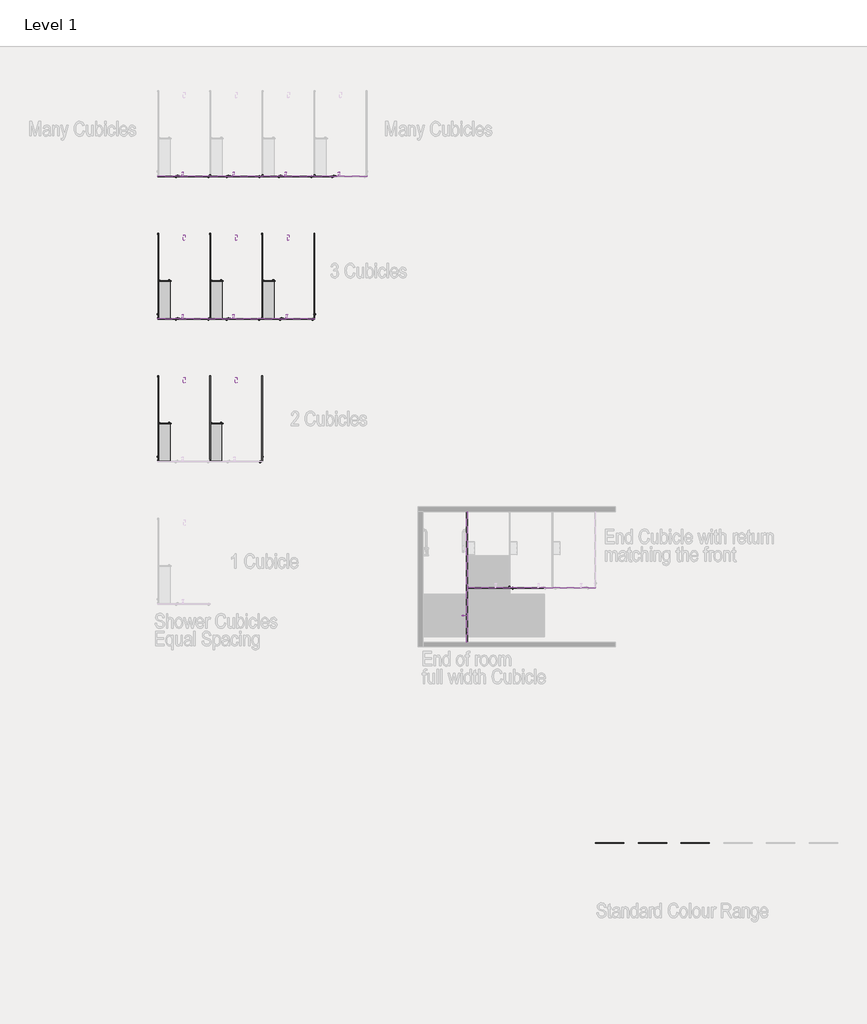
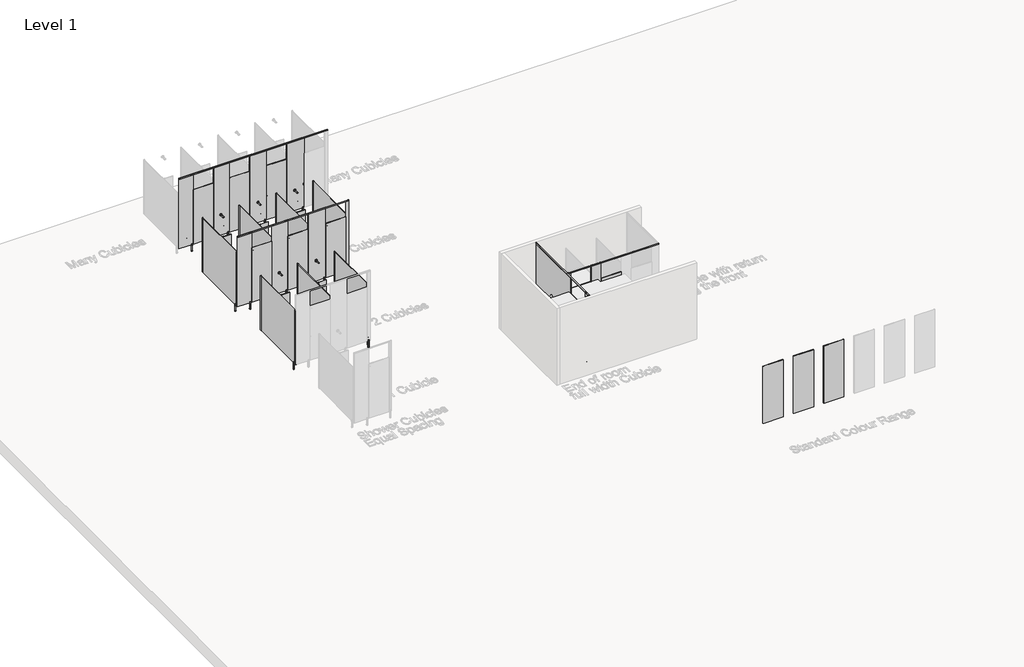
# One storey, part 5 of 21: 133 furniture elements, 5 flow terminals.
"""IFC4 building model written with IfcOpenShell, lengths in millimetres."""

from ifc_helpers import new_model, si_unit, origin, place, context, project, spatial, transform, mapped, element, save
from components import shower_outlet_generic_cylinder_fixed_standard_5790de0d, furniture_50x50x3_ea_0fb80352, standard_e386308a, standard_6b64d56b, standard_17157e73, standard_9bd00577, standard_65739662, standard_f6136b52, standard_e81fa5b9, standard_ffdb37bb, standard_33255a47, standard_652f884a, standard_c5de867e, standard_d8ce52b2, standard_33f537b4, standard_4fdd54ca, standard_2b15ccc3, standard_f97d8a50, standard_a796d752, standard_46c0796d, standard_c26dc9b4, standard_c51d1a0a, standard_d9afaeec, standard_fdf829a3, standard_31cafe8a, standard_3d746f33, standard_4055153e, standard_ba3eb68e, standard_a495ee6c, standard_6f46902e, standard_4ddd5521, standard_c67f05f5

model = new_model("IFC4")

# Units and contexts
model_context = context("Model", 3, world=origin())
ifc_project = project(units=[si_unit("LENGTHUNIT", "METRE", prefix="MILLI")], contexts=[model_context])

# Site, building, storey
site = spatial("IfcSite", under=ifc_project)
building = spatial("IfcBuilding", under=site)
storey = spatial("IfcBuildingStorey", under=building, Name="Level 1", Elevation=0.0)

# Flow terminals
placement = place(None, origin())
shower_outlet_generic_cylinder_fixed_standard_shape = shower_outlet_generic_cylinder_fixed_standard_5790de0d(model_context)
element("IfcFlowTerminal", 1, ObjectType="Shower-Outlet-Generic-Cylinder-Fixed : Standard", at=placement, inside=storey, context=model_context, shape_type="MappedRepresentation", body=[
    mapped(shower_outlet_generic_cylinder_fixed_standard_shape, transform((-19348.5301542, 27782.2607897, 1800.0), x_axis=(1.0, 0.0, 0.0), y_axis=(0.0, 0.0, 1.0), z_axis=(0.0, -1.0, 0.0))),
])
element("IfcFlowTerminal", 2, ObjectType="Shower-Outlet-Generic-Cylinder-Fixed : Standard", at=placement, inside=storey, context=model_context, shape_type="MappedRepresentation", body=[
    mapped(shower_outlet_generic_cylinder_fixed_standard_shape, transform((-18255.0301542, 27782.2607897, 1800.0), x_axis=(1.0, 0.0, 0.0), y_axis=(0.0, 0.0, 1.0), z_axis=(0.0, -1.0, 0.0))),
])
element("IfcFlowTerminal", 3, ObjectType="Shower-Outlet-Generic-Cylinder-Fixed : Standard", at=placement, inside=storey, context=model_context, shape_type="MappedRepresentation", body=[
    mapped(shower_outlet_generic_cylinder_fixed_standard_shape, transform((-19347.4468208, 30782.2607897, 1800.0), x_axis=(1.0, 0.0, 0.0), y_axis=(0.0, 0.0, 1.0), z_axis=(0.0, -1.0, 0.0))),
])
element("IfcFlowTerminal", 4, ObjectType="Shower-Outlet-Generic-Cylinder-Fixed : Standard", at=placement, inside=storey, context=model_context, shape_type="MappedRepresentation", body=[
    mapped(shower_outlet_generic_cylinder_fixed_standard_shape, transform((-17156.1134875, 30782.2607897, 1800.0), x_axis=(1.0, 0.0, 0.0), y_axis=(0.0, 0.0, 1.0), z_axis=(0.0, -1.0, 0.0))),
])
element("IfcFlowTerminal", 5, ObjectType="Shower-Outlet-Generic-Cylinder-Fixed : Standard", at=placement, inside=storey, context=model_context, shape_type="MappedRepresentation", body=[
    mapped(shower_outlet_generic_cylinder_fixed_standard_shape, transform((-18251.7801542, 30782.2607897, 1800.0), x_axis=(1.0, 0.0, 0.0), y_axis=(0.0, 0.0, 1.0), z_axis=(0.0, -1.0, 0.0))),
])

# Furniture
furniture_50x50x3_ea_shape = furniture_50x50x3_ea_0fb80352(model_context)
element("IfcFurniture", 6, ObjectType="X_Partition-Angle-Duracube-Shower Seat : 50x50x3 EA", at=placement, inside=storey, context=model_context, shape_type="MappedRepresentation", body=[
    mapped(furniture_50x50x3_ea_shape, transform((-19888.7801542, 26719.2607897, 462.0), x_axis=(0.0, -1.0, 0.0), y_axis=(0.0, 0.0, -1.0), z_axis=(1.0, 0.0, 0.0))),
])
element("IfcFurniture", 7, ObjectType="X_Partition-Angle-Duracube-Shower Seat : 50x50x3 EA", at=placement, inside=storey, context=model_context, shape_type="MappedRepresentation", body=[
    mapped(furniture_50x50x3_ea_shape, transform((-19888.7801542, 26032.2607897, 462.0), x_axis=(0.0, -1.0, 0.0), y_axis=(0.0, 0.0, -1.0), z_axis=(1.0, 0.0, 0.0))),
])
element("IfcFurniture", 8, ObjectType="X_Partition-Angle-Duracube-Shower Seat : 50x50x3 EA", at=placement, inside=storey, context=model_context, shape_type="MappedRepresentation", body=[
    mapped(furniture_50x50x3_ea_shape, transform((-19888.7801542, 26375.7607897, 462.0), x_axis=(0.0, -1.0, 0.0), y_axis=(0.0, 0.0, -1.0), z_axis=(1.0, 0.0, 0.0))),
])
element("IfcFurniture", 9, ObjectType="X_Partition-Angle-Duracube-Shower Seat : 50x50x3 EA", at=placement, inside=storey, context=model_context, shape_type="MappedRepresentation", body=[
    mapped(furniture_50x50x3_ea_shape, transform((-19673.7801542, 26769.2607897, 462.0), x_axis=(-1.0, 0.0, 0.0), y_axis=(0.0, 0.0, -1.0), z_axis=(0.0, -1.0, 0.0))),
])
element("IfcFurniture", 10, ObjectType="X_Partition-Angle-Duracube-Shower Seat : 50x50x3 EA", at=placement, inside=storey, context=model_context, shape_type="MappedRepresentation", body=[
    mapped(furniture_50x50x3_ea_shape, transform((-19673.7801542, 26007.2607897, 487.0), x_axis=(-1.0, 0.0, 0.0), y_axis=(0.0, 1.0, 0.0), z_axis=(0.0, 0.0, -1.0))),
])
element("IfcFurniture", 11, ObjectType="X_Partition-Angle-Duracube-Shower Seat : 50x50x3 EA", at=placement, inside=storey, context=model_context, shape_type="MappedRepresentation", body=[
    mapped(furniture_50x50x3_ea_shape, transform((-18795.2801542, 26719.2607897, 462.0), x_axis=(0.0, -1.0, 0.0), y_axis=(0.0, 0.0, -1.0), z_axis=(1.0, 0.0, 0.0))),
])
element("IfcFurniture", 12, ObjectType="X_Partition-Angle-Duracube-Shower Seat : 50x50x3 EA", at=placement, inside=storey, context=model_context, shape_type="MappedRepresentation", body=[
    mapped(furniture_50x50x3_ea_shape, transform((-18795.2801542, 26032.2607897, 462.0), x_axis=(0.0, -1.0, 0.0), y_axis=(0.0, 0.0, -1.0), z_axis=(1.0, 0.0, 0.0))),
])
element("IfcFurniture", 13, ObjectType="X_Partition-Angle-Duracube-Shower Seat : 50x50x3 EA", at=placement, inside=storey, context=model_context, shape_type="MappedRepresentation", body=[
    mapped(furniture_50x50x3_ea_shape, transform((-18795.2801542, 26375.7607897, 462.0), x_axis=(0.0, -1.0, 0.0), y_axis=(0.0, 0.0, -1.0), z_axis=(1.0, 0.0, 0.0))),
])
element("IfcFurniture", 14, ObjectType="X_Partition-Angle-Duracube-Shower Seat : 50x50x3 EA", at=placement, inside=storey, context=model_context, shape_type="MappedRepresentation", body=[
    mapped(furniture_50x50x3_ea_shape, transform((-18580.2801542, 26769.2607897, 462.0), x_axis=(-1.0, 0.0, 0.0), y_axis=(0.0, 0.0, -1.0), z_axis=(0.0, -1.0, 0.0))),
])
element("IfcFurniture", 15, ObjectType="X_Partition-Angle-Duracube-Shower Seat : 50x50x3 EA", at=placement, inside=storey, context=model_context, shape_type="MappedRepresentation", body=[
    mapped(furniture_50x50x3_ea_shape, transform((-18580.2801542, 26007.2607897, 487.0), x_axis=(-1.0, 0.0, 0.0), y_axis=(0.0, 1.0, 0.0), z_axis=(0.0, 0.0, -1.0))),
])
element("IfcFurniture", 16, ObjectType="X_Partition-Angle-Duracube-Shower Seat : 50x50x3 EA", at=placement, inside=storey, context=model_context, shape_type="MappedRepresentation", body=[
    mapped(furniture_50x50x3_ea_shape, transform((-19888.7801542, 29719.2607897, 462.0), x_axis=(0.0, -1.0, 0.0), y_axis=(0.0, 0.0, -1.0), z_axis=(1.0, 0.0, 0.0))),
])
element("IfcFurniture", 17, ObjectType="X_Partition-Angle-Duracube-Shower Seat : 50x50x3 EA", at=placement, inside=storey, context=model_context, shape_type="MappedRepresentation", body=[
    mapped(furniture_50x50x3_ea_shape, transform((-19888.7801542, 29032.2607897, 462.0), x_axis=(0.0, -1.0, 0.0), y_axis=(0.0, 0.0, -1.0), z_axis=(1.0, 0.0, 0.0))),
])
element("IfcFurniture", 18, ObjectType="X_Partition-Angle-Duracube-Shower Seat : 50x50x3 EA", at=placement, inside=storey, context=model_context, shape_type="MappedRepresentation", body=[
    mapped(furniture_50x50x3_ea_shape, transform((-19888.7801542, 29375.7607897, 462.0), x_axis=(0.0, -1.0, 0.0), y_axis=(0.0, 0.0, -1.0), z_axis=(1.0, 0.0, 0.0))),
])
element("IfcFurniture", 19, ObjectType="X_Partition-Angle-Duracube-Shower Seat : 50x50x3 EA", at=placement, inside=storey, context=model_context, shape_type="MappedRepresentation", body=[
    mapped(furniture_50x50x3_ea_shape, transform((-19673.7801542, 29769.2607897, 462.0), x_axis=(-1.0, 0.0, 0.0), y_axis=(0.0, 0.0, -1.0), z_axis=(0.0, -1.0, 0.0))),
])
element("IfcFurniture", 20, ObjectType="X_Partition-Angle-Duracube-Shower Seat : 50x50x3 EA", at=placement, inside=storey, context=model_context, shape_type="MappedRepresentation", body=[
    mapped(furniture_50x50x3_ea_shape, transform((-19673.7801542, 29007.2607897, 487.0), x_axis=(-1.0, 0.0, 0.0), y_axis=(0.0, 1.0, 0.0), z_axis=(0.0, 0.0, -1.0))),
])
element("IfcFurniture", 21, ObjectType="X_Partition-Angle-Duracube-Shower Seat : 50x50x3 EA", at=placement, inside=storey, context=model_context, shape_type="MappedRepresentation", body=[
    mapped(furniture_50x50x3_ea_shape, transform((-18793.1134875, 29719.2607897, 462.0), x_axis=(0.0, -1.0, 0.0), y_axis=(0.0, 0.0, -1.0), z_axis=(1.0, 0.0, 0.0))),
])
element("IfcFurniture", 22, ObjectType="X_Partition-Angle-Duracube-Shower Seat : 50x50x3 EA", at=placement, inside=storey, context=model_context, shape_type="MappedRepresentation", body=[
    mapped(furniture_50x50x3_ea_shape, transform((-18793.1134875, 29032.2607897, 462.0), x_axis=(0.0, -1.0, 0.0), y_axis=(0.0, 0.0, -1.0), z_axis=(1.0, 0.0, 0.0))),
])
element("IfcFurniture", 23, ObjectType="X_Partition-Angle-Duracube-Shower Seat : 50x50x3 EA", at=placement, inside=storey, context=model_context, shape_type="MappedRepresentation", body=[
    mapped(furniture_50x50x3_ea_shape, transform((-18793.1134875, 29375.7607897, 462.0), x_axis=(0.0, -1.0, 0.0), y_axis=(0.0, 0.0, -1.0), z_axis=(1.0, 0.0, 0.0))),
])
element("IfcFurniture", 24, ObjectType="X_Partition-Angle-Duracube-Shower Seat : 50x50x3 EA", at=placement, inside=storey, context=model_context, shape_type="MappedRepresentation", body=[
    mapped(furniture_50x50x3_ea_shape, transform((-18578.1134875, 29769.2607897, 462.0), x_axis=(-1.0, 0.0, 0.0), y_axis=(0.0, 0.0, -1.0), z_axis=(0.0, -1.0, 0.0))),
])
element("IfcFurniture", 25, ObjectType="X_Partition-Angle-Duracube-Shower Seat : 50x50x3 EA", at=placement, inside=storey, context=model_context, shape_type="MappedRepresentation", body=[
    mapped(furniture_50x50x3_ea_shape, transform((-18578.1134875, 29007.2607897, 487.0), x_axis=(-1.0, 0.0, 0.0), y_axis=(0.0, 1.0, 0.0), z_axis=(0.0, 0.0, -1.0))),
])
element("IfcFurniture", 26, ObjectType="X_Partition-Angle-Duracube-Shower Seat : 50x50x3 EA", at=placement, inside=storey, context=model_context, shape_type="MappedRepresentation", body=[
    mapped(furniture_50x50x3_ea_shape, transform((-17697.4468208, 29719.2607897, 462.0), x_axis=(0.0, -1.0, 0.0), y_axis=(0.0, 0.0, -1.0), z_axis=(1.0, 0.0, 0.0))),
])
element("IfcFurniture", 27, ObjectType="X_Partition-Angle-Duracube-Shower Seat : 50x50x3 EA", at=placement, inside=storey, context=model_context, shape_type="MappedRepresentation", body=[
    mapped(furniture_50x50x3_ea_shape, transform((-17697.4468208, 29032.2607897, 462.0), x_axis=(0.0, -1.0, 0.0), y_axis=(0.0, 0.0, -1.0), z_axis=(1.0, 0.0, 0.0))),
])
element("IfcFurniture", 28, ObjectType="X_Partition-Angle-Duracube-Shower Seat : 50x50x3 EA", at=placement, inside=storey, context=model_context, shape_type="MappedRepresentation", body=[
    mapped(furniture_50x50x3_ea_shape, transform((-17697.4468208, 29375.7607897, 462.0), x_axis=(0.0, -1.0, 0.0), y_axis=(0.0, 0.0, -1.0), z_axis=(1.0, 0.0, 0.0))),
])
element("IfcFurniture", 29, ObjectType="X_Partition-Angle-Duracube-Shower Seat : 50x50x3 EA", at=placement, inside=storey, context=model_context, shape_type="MappedRepresentation", body=[
    mapped(furniture_50x50x3_ea_shape, transform((-17482.4468208, 29769.2607897, 462.0), x_axis=(-1.0, 0.0, 0.0), y_axis=(0.0, 0.0, -1.0), z_axis=(0.0, -1.0, 0.0))),
])
element("IfcFurniture", 30, ObjectType="X_Partition-Angle-Duracube-Shower Seat : 50x50x3 EA", at=placement, inside=storey, context=model_context, shape_type="MappedRepresentation", body=[
    mapped(furniture_50x50x3_ea_shape, transform((-17482.4468208, 29007.2607897, 487.0), x_axis=(-1.0, 0.0, 0.0), y_axis=(0.0, 1.0, 0.0), z_axis=(0.0, 0.0, -1.0))),
])
standard_shape = standard_e386308a(model_context)
element("IfcFurniture", 31, ObjectType="X_Partition-Channel-Duracube-Ceiling : Standard", at=placement, inside=storey, context=model_context, shape_type="MappedRepresentation", body=[
    mapped(standard_shape, transform((-18296.4804806, 28984.2607897, 2374.0), x_axis=(1.0, 0.0, 0.0), y_axis=(0.0, 1.0, 0.0), z_axis=(0.0, 0.0, 1.0))),
])
standard_2_shape = standard_6b64d56b(model_context)
element("IfcFurniture", 32, ObjectType="X_Partition-Channel-Duracube-Ceiling : Standard", at=placement, inside=storey, context=model_context, shape_type="MappedRepresentation", body=[
    mapped(standard_2_shape, transform((-17746.4804806, 31984.2607897, 2374.0), x_axis=(1.0, 0.0, 0.0), y_axis=(0.0, 1.0, 0.0), z_axis=(0.0, 0.0, 1.0))),
])
standard_3_shape = standard_17157e73(model_context)
element("IfcFurniture", 33, ObjectType="X_Partition-Compact Laminate-Duracube-Rectangular : Standard", at=placement, inside=storey, context=model_context, shape_type="MappedRepresentation", body=[
    mapped(standard_3_shape, transform((-17714.7801542, 26837.5604633, 0.0), x_axis=(0.0, 1.0000000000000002, 0.0), y_axis=(-1.0000000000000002, 0.0, 0.0), z_axis=(0.0, 0.0, 1.0))),
])
element("IfcFurniture", 34, ObjectType="X_Partition-Compact Laminate-Duracube-Rectangular : Standard", at=placement, inside=storey, context=model_context, shape_type="MappedRepresentation", body=[
    mapped(standard_3_shape, transform((-16614.7801542, 29837.5604633, 0.0), x_axis=(0.0, 1.0000000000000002, 0.0), y_axis=(-1.0000000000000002, 0.0, 0.0), z_axis=(0.0, 0.0, 1.0))),
])
standard_4_shape = standard_9bd00577(model_context)
element("IfcFurniture", 35, ObjectType="X_Partition-Compact Laminate-Duracube-Rectangular : Standard", at=placement, inside=storey, context=model_context, shape_type="MappedRepresentation", body=[
    mapped(standard_4_shape, transform((-10430.1169784, 17955.4926651, 0.0), x_axis=(1.0, 0.0, 0.0), y_axis=(0.0, 1.0, 0.0), z_axis=(0.0, 0.0, 1.0))),
])
element("IfcFurniture", 36, ObjectType="X_Partition-Compact Laminate-Duracube-Rectangular : Standard", at=placement, inside=storey, context=model_context, shape_type="MappedRepresentation", body=[
    mapped(standard_4_shape, transform((-9530.1169784, 17955.4926651, 0.0), x_axis=(1.0, 0.0, 0.0), y_axis=(0.0, 1.0, 0.0), z_axis=(0.0, 0.0, 1.0))),
])
element("IfcFurniture", 37, ObjectType="X_Partition-Compact Laminate-Duracube-Rectangular : Standard", at=placement, inside=storey, context=model_context, shape_type="MappedRepresentation", body=[
    mapped(standard_4_shape, transform((-8630.1169784, 17955.4926651, 0.0), x_axis=(1.0, 0.0, 0.0), y_axis=(0.0, 1.0, 0.0), z_axis=(0.0, 0.0, 1.0))),
])
element("IfcFurniture", 38, ObjectType="X_Partition-Compact Laminate-Duracube-Rectangular : Standard", at=placement, inside=storey, context=model_context, shape_type="MappedRepresentation", body=[
    mapped(standard_3_shape, transform((-19901.7801542, 26837.5604633, 0.0), x_axis=(0.0, 1.0000000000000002, 0.0), y_axis=(-1.0000000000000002, 0.0, 0.0), z_axis=(0.0, 0.0, 1.0))),
])
element("IfcFurniture", 39, ObjectType="X_Partition-Compact Laminate-Duracube-Rectangular : Standard", at=placement, inside=storey, context=model_context, shape_type="MappedRepresentation", body=[
    mapped(standard_3_shape, transform((-18808.2801542, 26837.5604633, 0.0), x_axis=(0.0, 1.0000000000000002, 0.0), y_axis=(-1.0000000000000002, 0.0, 0.0), z_axis=(0.0, 0.0, 1.0))),
])
element("IfcFurniture", 40, ObjectType="X_Partition-Compact Laminate-Duracube-Rectangular : Standard", at=placement, inside=storey, context=model_context, shape_type="MappedRepresentation", body=[
    mapped(standard_3_shape, transform((-19901.7801542, 29837.5604633, 0.0), x_axis=(0.0, 1.0000000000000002, 0.0), y_axis=(-1.0000000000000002, 0.0, 0.0), z_axis=(0.0, 0.0, 1.0))),
])
element("IfcFurniture", 41, ObjectType="X_Partition-Compact Laminate-Duracube-Rectangular : Standard", at=placement, inside=storey, context=model_context, shape_type="MappedRepresentation", body=[
    mapped(standard_3_shape, transform((-18806.1134875, 29837.5604633, 0.0), x_axis=(0.0, 1.0, 0.0), y_axis=(-1.0, 0.0, 0.0), z_axis=(0.0, 0.0, 1.0))),
])
element("IfcFurniture", 42, ObjectType="X_Partition-Compact Laminate-Duracube-Rectangular : Standard", at=placement, inside=storey, context=model_context, shape_type="MappedRepresentation", body=[
    mapped(standard_3_shape, transform((-17710.4468208, 29837.5604633, 0.0), x_axis=(0.0, 1.0, 0.0), y_axis=(-1.0, 0.0, 0.0), z_axis=(0.0, 0.0, 1.0))),
])
standard_5_shape = standard_65739662(model_context)
element("IfcFurniture", 43, ObjectType="X_Partition-Compact Laminate-Duracube-Shower Seat & Division : Standard", at=placement, inside=storey, context=model_context, shape_type="MappedRepresentation", body=[
    mapped(standard_5_shape, transform((-19710.0798277, 26782.2607897, 0.0), x_axis=(-1.0, 0.0, 0.0), y_axis=(0.0, -1.0, 0.0), z_axis=(0.0, 0.0, 1.0))),
])
element("IfcFurniture", 44, ObjectType="X_Partition-Compact Laminate-Duracube-Shower Seat & Division : Standard", at=placement, inside=storey, context=model_context, shape_type="MappedRepresentation", body=[
    mapped(standard_5_shape, transform((-18616.5798277, 26782.2607897, 0.0), x_axis=(-1.0, 0.0, 0.0), y_axis=(0.0, -1.0, 0.0), z_axis=(0.0, 0.0, 1.0))),
])
element("IfcFurniture", 45, ObjectType="X_Partition-Compact Laminate-Duracube-Shower Seat & Division : Standard", at=placement, inside=storey, context=model_context, shape_type="MappedRepresentation", body=[
    mapped(standard_5_shape, transform((-19710.0798277, 29782.2607897, 0.0), x_axis=(-1.0, 0.0, 0.0), y_axis=(0.0, -1.0, 0.0), z_axis=(0.0, 0.0, 1.0))),
])
element("IfcFurniture", 46, ObjectType="X_Partition-Compact Laminate-Duracube-Shower Seat & Division : Standard", at=placement, inside=storey, context=model_context, shape_type="MappedRepresentation", body=[
    mapped(standard_5_shape, transform((-18614.4131611, 29782.2607897, 0.0), x_axis=(-1.0, 0.0, 0.0), y_axis=(0.0, -1.0, 0.0), z_axis=(0.0, 0.0, 1.0))),
])
element("IfcFurniture", 47, ObjectType="X_Partition-Compact Laminate-Duracube-Shower Seat & Division : Standard", at=placement, inside=storey, context=model_context, shape_type="MappedRepresentation", body=[
    mapped(standard_5_shape, transform((-17518.7464944, 29782.2607897, 0.0), x_axis=(-1.0, 0.0, 0.0), y_axis=(0.0, -1.0, 0.0), z_axis=(0.0, 0.0, 1.0))),
])
standard_6_shape = standard_f6136b52(model_context)
element("IfcFurniture", 48, ObjectType="X_Partition-Channel-Duracube-End : Standard", at=placement, inside=storey, context=model_context, shape_type="MappedRepresentation", body=[
    mapped(standard_6_shape, transform((-19918.4804806, 26769.2607897, 0.0), x_axis=(1.0000000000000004, 0.0, 0.0), y_axis=(0.0, 1.0000000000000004, 0.0), z_axis=(0.0, 0.0, 1.0))),
])
element("IfcFurniture", 49, ObjectType="X_Partition-Channel-Duracube-End : Standard", at=placement, inside=storey, context=model_context, shape_type="MappedRepresentation", body=[
    mapped(standard_6_shape, transform((-18824.9804806, 26769.2607897, 0.0), x_axis=(1.0000000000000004, 0.0, 0.0), y_axis=(0.0, 1.0000000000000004, 0.0), z_axis=(0.0, 0.0, 1.0))),
])
element("IfcFurniture", 50, ObjectType="X_Partition-Channel-Duracube-End : Standard", at=placement, inside=storey, context=model_context, shape_type="MappedRepresentation", body=[
    mapped(standard_6_shape, transform((-19918.4804806, 29769.2607897, 0.0), x_axis=(1.0000000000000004, 0.0, 0.0), y_axis=(0.0, 1.0000000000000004, 0.0), z_axis=(0.0, 0.0, 1.0))),
])
element("IfcFurniture", 51, ObjectType="X_Partition-Channel-Duracube-End : Standard", at=placement, inside=storey, context=model_context, shape_type="MappedRepresentation", body=[
    mapped(standard_6_shape, transform((-18822.8138139, 29769.2607897, 0.0), x_axis=(1.0000000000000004, 0.0, 0.0), y_axis=(0.0, 1.0000000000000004, 0.0), z_axis=(0.0, 0.0, 1.0))),
])
element("IfcFurniture", 52, ObjectType="X_Partition-Channel-Duracube-End : Standard", at=placement, inside=storey, context=model_context, shape_type="MappedRepresentation", body=[
    mapped(standard_6_shape, transform((-17727.1471473, 29769.2607897, 0.0), x_axis=(1.0000000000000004, 0.0, 0.0), y_axis=(0.0, 1.0000000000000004, 0.0), z_axis=(0.0, 0.0, 1.0))),
])
standard_7_shape = standard_e81fa5b9(model_context)
element("IfcFurniture", 53, ObjectType="X_Partition-Channel-Duracube-Ceiling : Standard", at=placement, inside=storey, context=model_context, shape_type="MappedRepresentation", body=[
    mapped(standard_7_shape, transform((-12081.5826109, 23323.3616863, 2374.0), x_axis=(1.0, 0.0, 0.0), y_axis=(0.0, 1.0, 0.0), z_axis=(0.0, 0.0, 1.0))),
])
standard_8_shape = standard_ffdb37bb(model_context)
element("IfcFurniture", 54, ObjectType="X_Partition-Channel-Duracube-Ceiling : Standard", at=placement, inside=storey, context=model_context, shape_type="MappedRepresentation", body=[
    mapped(standard_8_shape, transform((-13402.8822845, 23501.6613599, 2374.0), x_axis=(0.0, 1.0, 0.0), y_axis=(-1.0, 0.0, 0.0), z_axis=(0.0, 0.0, 1.0))),
])
standard_9_shape = standard_33255a47(model_context)
element("IfcFurniture", 55, ObjectType="X_Partition-Compact Laminate-Duracube-Rectangular : Standard", at=placement, inside=storey, context=model_context, shape_type="MappedRepresentation", body=[
    mapped(standard_9_shape, transform((-13382.0826109, 23321.3616863, 0.0), x_axis=(1.0, 0.0, 0.0), y_axis=(0.0, 1.0, 0.0), z_axis=(0.0, 0.0, 1.0))),
])
standard_10_shape = standard_652f884a(model_context)
element("IfcFurniture", 56, ObjectType="X_Partition-Compact Laminate-Duracube-Rectangular : Standard", at=placement, inside=storey, context=model_context, shape_type="MappedRepresentation", body=[
    mapped(standard_10_shape, transform((-16687.4804806, 28982.2607897, 0.0), x_axis=(1.0, 0.0, 0.0), y_axis=(0.0, 1.0, 0.0), z_axis=(0.0, 0.0, 1.0))),
])
standard_11_shape = standard_c5de867e(model_context)
element("IfcFurniture", 57, ObjectType="X_Partition-Compact Laminate-Duracube-Rectangular : Standard", at=placement, inside=storey, context=model_context, shape_type="MappedRepresentation", body=[
    mapped(standard_11_shape, transform((-19739.1471473, 28982.2607897, 0.0), x_axis=(1.0, 0.0, 0.0), y_axis=(0.0, 1.0, 0.0), z_axis=(0.0, 0.0, 1.0))),
])
standard_12_shape = standard_d8ce52b2(model_context)
element("IfcFurniture", 58, ObjectType="X_Partition-Compact Laminate-Duracube-Rectangular : Standard", at=placement, inside=storey, context=model_context, shape_type="MappedRepresentation", body=[
    mapped(standard_12_shape, transform((-18690.4804806, 28982.2607897, 0.0), x_axis=(1.0, 0.0, 0.0), y_axis=(0.0, 1.0, 0.0), z_axis=(0.0, 0.0, 1.0))),
])
standard_13_shape = standard_33f537b4(model_context)
element("IfcFurniture", 59, ObjectType="X_Partition-Compact Laminate-Duracube-Rectangular : Standard", at=placement, inside=storey, context=model_context, shape_type="MappedRepresentation", body=[
    mapped(standard_13_shape, transform((-17594.8138139, 28982.2607897, 0.0), x_axis=(1.0, 0.0, 0.0), y_axis=(0.0, 1.0, 0.0), z_axis=(0.0, 0.0, 1.0))),
])
standard_14_shape = standard_4fdd54ca(model_context)
element("IfcFurniture", 60, ObjectType="X_Partition-Compact Laminate-Duracube-Rectangular : Standard", at=placement, inside=storey, context=model_context, shape_type="MappedRepresentation", body=[
    mapped(standard_14_shape, transform((-19738.6054806, 31982.2607897, 0.0), x_axis=(1.0, 0.0, 0.0), y_axis=(0.0, 1.0, 0.0), z_axis=(0.0, 0.0, 1.0))),
])
standard_15_shape = standard_2b15ccc3(model_context)
element("IfcFurniture", 61, ObjectType="X_Partition-Compact Laminate-Duracube-Rectangular : Standard", at=placement, inside=storey, context=model_context, shape_type="MappedRepresentation", body=[
    mapped(standard_15_shape, transform((-18688.8554806, 31982.2607897, 0.0), x_axis=(1.0, 0.0, 0.0), y_axis=(0.0, 1.0, 0.0), z_axis=(0.0, 0.0, 1.0))),
])
standard_16_shape = standard_f97d8a50(model_context)
element("IfcFurniture", 62, ObjectType="X_Partition-Compact Laminate-Duracube-Rectangular : Standard", at=placement, inside=storey, context=model_context, shape_type="MappedRepresentation", body=[
    mapped(standard_16_shape, transform((-16495.3554806, 31982.2607897, 0.0), x_axis=(1.0, 0.0, 0.0), y_axis=(0.0, 1.0, 0.0), z_axis=(0.0, 0.0, 1.0))),
])
standard_17_shape = standard_a796d752(model_context)
element("IfcFurniture", 63, ObjectType="X_Partition-Compact Laminate-Duracube-Rectangular : Standard", at=placement, inside=storey, context=model_context, shape_type="MappedRepresentation", body=[
    mapped(standard_17_shape, transform((-17604.6054806, 31982.2607897, 0.0), x_axis=(1.0, 0.0, 0.0), y_axis=(0.0, 1.0, 0.0), z_axis=(0.0, 0.0, 1.0))),
])
standard_18_shape = standard_46c0796d(model_context)
element("IfcFurniture", 64, ObjectType="X_Partition-Compact Laminate-Duracube-Rectangular : Standard", at=placement, inside=storey, context=model_context, shape_type="MappedRepresentation", body=[
    mapped(standard_18_shape, transform((-13400.8822845, 22227.1613599, 0.0), x_axis=(0.0, 1.0, 0.0), y_axis=(-1.0, 0.0, 0.0), z_axis=(0.0, 0.0, 1.0))),
])
standard_19_shape = standard_c26dc9b4(model_context)
element("IfcFurniture", 65, ObjectType="X_Partition-Compact Laminate-Duracube-Rectangular : Standard", at=placement, inside=storey, context=model_context, shape_type="MappedRepresentation", body=[
    mapped(standard_19_shape, transform((-13400.8822845, 23963.6613599, 0.0), x_axis=(0.0, 1.0, 0.0), y_axis=(-1.0, 0.0, 0.0), z_axis=(0.0, 0.0, 1.0))),
])
standard_20_shape = standard_c51d1a0a(model_context)
element("IfcFurniture", 66, ObjectType="X_Partition-Compact Laminate-Duracube-Rectangular : Standard", at=placement, inside=storey, context=model_context, shape_type="MappedRepresentation", body=[
    mapped(standard_20_shape, transform((-12582.5826109, 23321.3616863, 0.0), x_axis=(1.0, 0.0, 0.0), y_axis=(0.0, 1.0, 0.0), z_axis=(0.0, 0.0, 1.0))),
])
standard_21_shape = standard_d9afaeec(model_context)
element("IfcFurniture", 67, ObjectType="X_Partition-Compact Laminate-Duracube-Door : Standard", at=placement, inside=storey, context=model_context, shape_type="MappedRepresentation", body=[
    mapped(standard_21_shape, transform((-13032.5826109, 23321.3616863, 0.0), x_axis=(1.0, 0.0, 0.0), y_axis=(0.0, 1.0, 0.0), z_axis=(0.0, 0.0, 1.0))),
])
element("IfcFurniture", 68, ObjectType="X_Partition-Compact Laminate-Duracube-Door : Standard", at=placement, inside=storey, context=model_context, shape_type="MappedRepresentation", body=[
    mapped(standard_21_shape, transform((-12132.5826109, 23321.3616863, 0.0), x_axis=(1.0, 0.0, 0.0), y_axis=(0.0, 1.0, 0.0), z_axis=(0.0, 0.0, 1.0))),
])
element("IfcFurniture", 69, ObjectType="X_Partition-Compact Laminate-Duracube-Door : Standard", at=placement, inside=storey, context=model_context, shape_type="MappedRepresentation", body=[
    mapped(standard_21_shape, transform((-19225.8138139, 28982.2607897, 0.0), x_axis=(1.0, 0.0, 0.0), y_axis=(0.0, 1.0, 0.0), z_axis=(0.0, 0.0, 1.0))),
])
element("IfcFurniture", 70, ObjectType="X_Partition-Compact Laminate-Duracube-Door : Standard", at=placement, inside=storey, context=model_context, shape_type="MappedRepresentation", body=[
    mapped(standard_21_shape, transform((-17034.4804806, 28982.2607897, 0.0), x_axis=(1.0, 0.0, 0.0), y_axis=(0.0, 1.0, 0.0), z_axis=(0.0, 0.0, 1.0))),
])
element("IfcFurniture", 71, ObjectType="X_Partition-Compact Laminate-Duracube-Door : Standard", at=placement, inside=storey, context=model_context, shape_type="MappedRepresentation", body=[
    mapped(standard_21_shape, transform((-18155.1471473, 28982.2607897, 0.0), x_axis=(1.0, 0.0, 0.0), y_axis=(0.0, 1.0, 0.0), z_axis=(0.0, 0.0, 1.0))),
])
element("IfcFurniture", 72, ObjectType="X_Partition-Compact Laminate-Duracube-Door : Standard", at=placement, inside=storey, context=model_context, shape_type="MappedRepresentation", body=[
    mapped(standard_21_shape, transform((-19224.7304806, 31982.2607897, 0.0), x_axis=(1.0, 0.0, 0.0), y_axis=(0.0, 1.0, 0.0), z_axis=(0.0, 0.0, 1.0))),
])
element("IfcFurniture", 73, ObjectType="X_Partition-Compact Laminate-Duracube-Door : Standard", at=placement, inside=storey, context=model_context, shape_type="MappedRepresentation", body=[
    mapped(standard_21_shape, transform((-17056.2304806, 31982.2607897, 0.0), x_axis=(1.0, 0.0, 0.0), y_axis=(0.0, 1.0, 0.0), z_axis=(0.0, 0.0, 1.0))),
])
element("IfcFurniture", 74, ObjectType="X_Partition-Compact Laminate-Duracube-Door : Standard", at=placement, inside=storey, context=model_context, shape_type="MappedRepresentation", body=[
    mapped(standard_21_shape, transform((-18152.9804806, 31982.2607897, 0.0), x_axis=(1.0, 0.0, 0.0), y_axis=(0.0, 1.0, 0.0), z_axis=(0.0, 0.0, 1.0))),
])
standard_22_shape = standard_fdf829a3(model_context)
element("IfcFurniture", 75, ObjectType="X_Partition-Compact Laminate-Duracube-Door : Standard", at=placement, inside=storey, context=model_context, shape_type="MappedRepresentation", body=[
    mapped(standard_22_shape, transform((-13400.8822845, 22689.1613599, 0.0), x_axis=(0.0, 1.0, 0.0), y_axis=(-1.0, 0.0, 0.0), z_axis=(0.0, 0.0, 1.0))),
])
standard_23_shape = standard_31cafe8a(model_context)
element("IfcFurniture", 76, ObjectType="X_Partition-Robe Hook-Duracube-Door Stop : Standard", at=placement, inside=storey, context=model_context, shape_type="MappedRepresentation", body=[
    mapped(standard_23_shape, transform((-19381.1134875, 28982.2607897, 1700.0), x_axis=(-1.0, 0.0, 0.0), y_axis=(0.0, 0.0, 1.0), z_axis=(0.0, 1.0, 0.0))),
])
element("IfcFurniture", 77, ObjectType="X_Partition-Robe Hook-Duracube-Door Stop : Standard", at=placement, inside=storey, context=model_context, shape_type="MappedRepresentation", body=[
    mapped(standard_23_shape, transform((-17189.7801542, 28982.2607897, 1700.0), x_axis=(-1.0, 0.0, 0.0), y_axis=(0.0, 0.0, 1.0), z_axis=(0.0, 1.0, 0.0))),
])
element("IfcFurniture", 78, ObjectType="X_Partition-Robe Hook-Duracube-Door Stop : Standard", at=placement, inside=storey, context=model_context, shape_type="MappedRepresentation", body=[
    mapped(standard_23_shape, transform((-18310.4468208, 28982.2607897, 1700.0), x_axis=(-1.0, 0.0, 0.0), y_axis=(0.0, 0.0, 1.0), z_axis=(0.0, 1.0, 0.0))),
])
element("IfcFurniture", 79, ObjectType="X_Partition-Robe Hook-Duracube-Door Stop : Standard", at=placement, inside=storey, context=model_context, shape_type="MappedRepresentation", body=[
    mapped(standard_23_shape, transform((-19380.0301542, 31982.2607897, 1700.0), x_axis=(-1.0, 0.0, 0.0), y_axis=(0.0, 0.0, 1.0), z_axis=(0.0, 1.0, 0.0))),
])
element("IfcFurniture", 80, ObjectType="X_Partition-Robe Hook-Duracube-Door Stop : Standard", at=placement, inside=storey, context=model_context, shape_type="MappedRepresentation", body=[
    mapped(standard_23_shape, transform((-16089.7801542, 31982.2607897, 1700.0), x_axis=(-1.0, 0.0, 0.0), y_axis=(0.0, 0.0, 1.0), z_axis=(0.0, 1.0, 0.0))),
])
element("IfcFurniture", 81, ObjectType="X_Partition-Robe Hook-Duracube-Door Stop : Standard", at=placement, inside=storey, context=model_context, shape_type="MappedRepresentation", body=[
    mapped(standard_23_shape, transform((-13400.8822845, 22733.8616863, 1300.0), x_axis=(0.0, -1.0, 0.0), y_axis=(0.0, 0.0, 1.0), z_axis=(-1.0, 0.0, 0.0))),
])
element("IfcFurniture", 82, ObjectType="X_Partition-Robe Hook-Duracube-Door Stop : Standard", at=placement, inside=storey, context=model_context, shape_type="MappedRepresentation", body=[
    mapped(standard_23_shape, transform((-17211.5301542, 31982.2607897, 1700.0), x_axis=(-1.0, 0.0, 0.0), y_axis=(0.0, 0.0, 1.0), z_axis=(0.0, 1.0, 0.0))),
])
element("IfcFurniture", 83, ObjectType="X_Partition-Robe Hook-Duracube-Door Stop : Standard", at=placement, inside=storey, context=model_context, shape_type="MappedRepresentation", body=[
    mapped(standard_23_shape, transform((-18308.2801542, 31982.2607897, 1700.0), x_axis=(-1.0, 0.0, 0.0), y_axis=(0.0, 0.0, 1.0), z_axis=(0.0, 1.0, 0.0))),
])
standard_24_shape = standard_3d746f33(model_context)
element("IfcFurniture", 84, ObjectType="X_Partition-Foot-Duracube-Assembly : Standard", at=placement, inside=storey, context=model_context, shape_type="MappedRepresentation", body=[
    mapped(standard_24_shape, transform((-19921.7801542, 26031.0604633, 0.0), x_axis=(0.0, 1.0000000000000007, 0.0), y_axis=(-1.0000000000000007, 0.0, 0.0), z_axis=(0.0, 0.0, 1.0))),
])
element("IfcFurniture", 85, ObjectType="X_Partition-Foot-Duracube-Assembly : Standard", at=placement, inside=storey, context=model_context, shape_type="MappedRepresentation", body=[
    mapped(standard_24_shape, transform((-17702.5798277, 25949.2607897, 0.0), x_axis=(-1.0000000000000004, 0.0, 0.0), y_axis=(0.0, -1.0000000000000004, 0.0), z_axis=(0.0, 0.0, 1.0))),
])
element("IfcFurniture", 86, ObjectType="X_Partition-Foot-Duracube-Assembly : Standard", at=placement, inside=storey, context=model_context, shape_type="MappedRepresentation", body=[
    mapped(standard_24_shape, transform((-19478.9131611, 28949.2607897, 0.0), x_axis=(-1.0000000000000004, 0.0, 0.0), y_axis=(0.0, -1.0000000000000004, 0.0), z_axis=(0.0, 0.0, 1.0))),
])
element("IfcFurniture", 87, ObjectType="X_Partition-Foot-Duracube-Assembly : Standard", at=placement, inside=storey, context=model_context, shape_type="MappedRepresentation", body=[
    mapped(standard_24_shape, transform((-19921.7801542, 29031.0604633, 0.0), x_axis=(0.0, 1.0000000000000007, 0.0), y_axis=(-1.0000000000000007, 0.0, 0.0), z_axis=(0.0, 0.0, 1.0))),
])
element("IfcFurniture", 88, ObjectType="X_Partition-Foot-Duracube-Assembly : Standard", at=placement, inside=storey, context=model_context, shape_type="MappedRepresentation", body=[
    mapped(standard_24_shape, transform((-16602.5798277, 28949.2607897, 0.0), x_axis=(-1.0000000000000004, 0.0, 0.0), y_axis=(0.0, -1.0000000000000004, 0.0), z_axis=(0.0, 0.0, 1.0))),
])
element("IfcFurniture", 89, ObjectType="X_Partition-Foot-Duracube-Assembly : Standard", at=placement, inside=storey, context=model_context, shape_type="MappedRepresentation", body=[
    mapped(standard_24_shape, transform((-18793.9131611, 28949.2607897, 0.0), x_axis=(-1.0000000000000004, 0.0, 0.0), y_axis=(0.0, -1.0000000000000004, 0.0), z_axis=(0.0, 0.0, 1.0))),
])
element("IfcFurniture", 90, ObjectType="X_Partition-Foot-Duracube-Assembly : Standard", at=placement, inside=storey, context=model_context, shape_type="MappedRepresentation", body=[
    mapped(standard_24_shape, transform((-18408.2464944, 28949.2607897, 0.0), x_axis=(-1.0000000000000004, 0.0, 0.0), y_axis=(0.0, -1.0000000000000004, 0.0), z_axis=(0.0, 0.0, 1.0))),
])
element("IfcFurniture", 91, ObjectType="X_Partition-Foot-Duracube-Assembly : Standard", at=placement, inside=storey, context=model_context, shape_type="MappedRepresentation", body=[
    mapped(standard_24_shape, transform((-17723.2464944, 28949.2607897, 0.0), x_axis=(-1.0000000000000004, 0.0, 0.0), y_axis=(0.0, -1.0000000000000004, 0.0), z_axis=(0.0, 0.0, 1.0))),
])
element("IfcFurniture", 92, ObjectType="X_Partition-Foot-Duracube-Assembly : Standard", at=placement, inside=storey, context=model_context, shape_type="MappedRepresentation", body=[
    mapped(standard_24_shape, transform((-17287.5798277, 28949.2607897, 0.0), x_axis=(-1.0000000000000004, 0.0, 0.0), y_axis=(0.0, -1.0000000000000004, 0.0), z_axis=(0.0, 0.0, 1.0))),
])
element("IfcFurniture", 93, ObjectType="X_Partition-Foot-Duracube-Assembly : Standard", at=placement, inside=storey, context=model_context, shape_type="MappedRepresentation", body=[
    mapped(standard_24_shape, transform((-19477.8298277, 31949.2607897, 0.0), x_axis=(-1.0000000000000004, 0.0, 0.0), y_axis=(0.0, -1.0000000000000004, 0.0), z_axis=(0.0, 0.0, 1.0))),
])
element("IfcFurniture", 94, ObjectType="X_Partition-Foot-Duracube-Assembly : Standard", at=placement, inside=storey, context=model_context, shape_type="MappedRepresentation", body=[
    mapped(standard_24_shape, transform((-18792.8298277, 31949.2607897, 0.0), x_axis=(-1.0000000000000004, 0.0, 0.0), y_axis=(0.0, -1.0000000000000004, 0.0), z_axis=(0.0, 0.0, 1.0))),
])
element("IfcFurniture", 95, ObjectType="X_Partition-Foot-Duracube-Assembly : Standard", at=placement, inside=storey, context=model_context, shape_type="MappedRepresentation", body=[
    mapped(standard_24_shape, transform((-18406.0798277, 31949.2607897, 0.0), x_axis=(-1.0000000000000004, 0.0, 0.0), y_axis=(0.0, -1.0000000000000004, 0.0), z_axis=(0.0, 0.0, 1.0))),
])
element("IfcFurniture", 96, ObjectType="X_Partition-Foot-Duracube-Assembly : Standard", at=placement, inside=storey, context=model_context, shape_type="MappedRepresentation", body=[
    mapped(standard_24_shape, transform((-16624.3298277, 31949.2607897, 0.0), x_axis=(-1.0000000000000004, 0.0, 0.0), y_axis=(0.0, -1.0000000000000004, 0.0), z_axis=(0.0, 0.0, 1.0))),
])
element("IfcFurniture", 97, ObjectType="X_Partition-Foot-Duracube-Assembly : Standard", at=placement, inside=storey, context=model_context, shape_type="MappedRepresentation", body=[
    mapped(standard_24_shape, transform((-16187.5798277, 31949.2607897, 0.0), x_axis=(-1.0000000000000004, 0.0, 0.0), y_axis=(0.0, -1.0000000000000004, 0.0), z_axis=(0.0, 0.0, 1.0))),
])
element("IfcFurniture", 98, ObjectType="X_Partition-Foot-Duracube-Assembly : Standard", at=placement, inside=storey, context=model_context, shape_type="MappedRepresentation", body=[
    mapped(standard_24_shape, transform((-17721.0798277, 31949.2607897, 0.0), x_axis=(-1.0000000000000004, 0.0, 0.0), y_axis=(0.0, -1.0000000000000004, 0.0), z_axis=(0.0, 0.0, 1.0))),
])
element("IfcFurniture", 99, ObjectType="X_Partition-Foot-Duracube-Assembly : Standard", at=placement, inside=storey, context=model_context, shape_type="MappedRepresentation", body=[
    mapped(standard_24_shape, transform((-17309.3298277, 31949.2607897, 0.0), x_axis=(-1.0000000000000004, 0.0, 0.0), y_axis=(0.0, -1.0000000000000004, 0.0), z_axis=(0.0, 0.0, 1.0))),
])
element("IfcFurniture", 100, ObjectType="X_Partition-Foot-Duracube-Assembly : Standard", at=placement, inside=storey, context=model_context, shape_type="MappedRepresentation", body=[
    mapped(standard_24_shape, transform((-12600.6819581, 23288.3616863, 0.0), x_axis=(-1.0000000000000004, 0.0, 0.0), y_axis=(0.0, -1.0000000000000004, 0.0), z_axis=(0.0, 0.0, 1.0))),
])
element("IfcFurniture", 101, ObjectType="X_Partition-Foot-Duracube-Assembly : Standard", at=placement, inside=storey, context=model_context, shape_type="MappedRepresentation", body=[
    mapped(standard_24_shape, transform((-12385.6819581, 23288.3616863, 0.0), x_axis=(-1.0000000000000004, 0.0, 0.0), y_axis=(0.0, -1.0000000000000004, 0.0), z_axis=(0.0, 0.0, 1.0))),
])
element("IfcFurniture", 102, ObjectType="X_Partition-Foot-Duracube-Assembly : Standard", at=placement, inside=storey, context=model_context, shape_type="MappedRepresentation", body=[
    mapped(standard_24_shape, transform((-13285.6819581, 23288.3616863, 0.0), x_axis=(-1.0000000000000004, 0.0, 0.0), y_axis=(0.0, -1.0000000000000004, 0.0), z_axis=(0.0, 0.0, 1.0))),
])
element("IfcFurniture", 103, ObjectType="X_Partition-Foot-Duracube-Assembly : Standard", at=placement, inside=storey, context=model_context, shape_type="MappedRepresentation", body=[
    mapped(standard_24_shape, transform((-13367.8822845, 22373.5620127, 0.0), x_axis=(0.0, -1.0000000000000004, 0.0), y_axis=(1.0000000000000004, 0.0, 0.0), z_axis=(0.0, 0.0, 1.0))),
])
element("IfcFurniture", 104, ObjectType="X_Partition-Foot-Duracube-Assembly : Standard", at=placement, inside=storey, context=model_context, shape_type="MappedRepresentation", body=[
    mapped(standard_24_shape, transform((-13367.8822845, 23183.5620127, 0.0), x_axis=(0.0, -1.0000000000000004, 0.0), y_axis=(1.0000000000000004, 0.0, 0.0), z_axis=(0.0, 0.0, 1.0))),
])
standard_25_shape = standard_4055153e(model_context)
element("IfcFurniture", 105, ObjectType="X_Partition-Channel-Duracube-End : Standard", at=placement, inside=storey, context=model_context, shape_type="MappedRepresentation", body=[
    mapped(standard_25_shape, transform((-13417.5826109, 23321.3616863, 0.0), x_axis=(1.0000000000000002, 0.0, 0.0), y_axis=(0.0, 1.0000000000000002, 0.0), z_axis=(0.0, 0.0, 1.0))),
])
element("IfcFurniture", 106, ObjectType="X_Partition-Channel-Duracube-End : Standard", at=placement, inside=storey, context=model_context, shape_type="MappedRepresentation", body=[
    mapped(standard_25_shape, transform((-13400.8822845, 22141.6613599, 0.0), x_axis=(0.0, 1.0000000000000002, 0.0), y_axis=(-1.0000000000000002, 0.0, 0.0), z_axis=(0.0, 0.0, 1.0))),
])
standard_26_shape = standard_ba3eb68e(model_context)
element("IfcFurniture", 107, ObjectType="X_Partition-Channel-Duracube-End : Standard", at=placement, inside=storey, context=model_context, shape_type="MappedRepresentation", body=[
    mapped(standard_26_shape, transform((-19888.7801542, 27811.9611161, 0.0), x_axis=(0.0, -1.0000000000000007, 0.0), y_axis=(1.0000000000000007, 0.0, 0.0), z_axis=(0.0, 0.0, 1.0))),
])
element("IfcFurniture", 108, ObjectType="X_Partition-Channel-Duracube-End : Standard", at=placement, inside=storey, context=model_context, shape_type="MappedRepresentation", body=[
    mapped(standard_26_shape, transform((-17701.7801542, 27811.9611161, 0.0), x_axis=(0.0, -1.0000000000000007, 0.0), y_axis=(1.0000000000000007, 0.0, 0.0), z_axis=(0.0, 0.0, 1.0))),
])
element("IfcFurniture", 109, ObjectType="X_Partition-Channel-Duracube-End : Standard", at=placement, inside=storey, context=model_context, shape_type="MappedRepresentation", body=[
    mapped(standard_26_shape, transform((-18795.2801542, 27811.9611161, 0.0), x_axis=(0.0, -1.0000000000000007, 0.0), y_axis=(1.0000000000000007, 0.0, 0.0), z_axis=(0.0, 0.0, 1.0))),
])
element("IfcFurniture", 110, ObjectType="X_Partition-Channel-Duracube-End : Standard", at=placement, inside=storey, context=model_context, shape_type="MappedRepresentation", body=[
    mapped(standard_26_shape, transform((-19888.7801542, 30811.9611161, 0.0), x_axis=(0.0, -1.0000000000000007, 0.0), y_axis=(1.0000000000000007, 0.0, 0.0), z_axis=(0.0, 0.0, 1.0))),
])
element("IfcFurniture", 111, ObjectType="X_Partition-Channel-Duracube-End : Standard", at=placement, inside=storey, context=model_context, shape_type="MappedRepresentation", body=[
    mapped(standard_26_shape, transform((-16601.7801542, 30811.9611161, 0.0), x_axis=(0.0, -1.0000000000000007, 0.0), y_axis=(1.0000000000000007, 0.0, 0.0), z_axis=(0.0, 0.0, 1.0))),
])
element("IfcFurniture", 112, ObjectType="X_Partition-Channel-Duracube-End : Standard", at=placement, inside=storey, context=model_context, shape_type="MappedRepresentation", body=[
    mapped(standard_26_shape, transform((-18806.1134875, 28952.5604633, 0.0), x_axis=(0.0, 1.0, 0.0), y_axis=(-1.0, 0.0, 0.0), z_axis=(0.0, 0.0, 1.0))),
])
element("IfcFurniture", 113, ObjectType="X_Partition-Channel-Duracube-End : Standard", at=placement, inside=storey, context=model_context, shape_type="MappedRepresentation", body=[
    mapped(standard_26_shape, transform((-18793.1134875, 30811.9611161, 0.0), x_axis=(0.0, -1.0, 0.0), y_axis=(1.0, 0.0, 0.0), z_axis=(0.0, 0.0, 1.0))),
])
element("IfcFurniture", 114, ObjectType="X_Partition-Channel-Duracube-End : Standard", at=placement, inside=storey, context=model_context, shape_type="MappedRepresentation", body=[
    mapped(standard_26_shape, transform((-18805.0301542, 31952.5604633, 0.0), x_axis=(0.0, 1.0, 0.0), y_axis=(-1.0, 0.0, 0.0), z_axis=(0.0, 0.0, 1.0))),
])
element("IfcFurniture", 115, ObjectType="X_Partition-Channel-Duracube-End : Standard", at=placement, inside=storey, context=model_context, shape_type="MappedRepresentation", body=[
    mapped(standard_26_shape, transform((-17708.2801542, 31952.5604633, 0.0), x_axis=(0.0, 1.0, 0.0), y_axis=(-1.0, 0.0, 0.0), z_axis=(0.0, 0.0, 1.0))),
])
element("IfcFurniture", 116, ObjectType="X_Partition-Channel-Duracube-End : Standard", at=placement, inside=storey, context=model_context, shape_type="MappedRepresentation", body=[
    mapped(standard_26_shape, transform((-12500.8822845, 23291.6613599, 0.0), x_axis=(0.0, 1.0, 0.0), y_axis=(-1.0, 0.0, 0.0), z_axis=(0.0, 0.0, 1.0))),
])
element("IfcFurniture", 117, ObjectType="X_Partition-Channel-Duracube-End : Standard", at=placement, inside=storey, context=model_context, shape_type="MappedRepresentation", body=[
    mapped(standard_26_shape, transform((-17710.4468208, 28952.5604633, 0.0), x_axis=(0.0, 1.0, 0.0), y_axis=(-1.0, 0.0, 0.0), z_axis=(0.0, 0.0, 1.0))),
])
element("IfcFurniture", 118, ObjectType="X_Partition-Channel-Duracube-End : Standard", at=placement, inside=storey, context=model_context, shape_type="MappedRepresentation", body=[
    mapped(standard_26_shape, transform((-17697.4468208, 30811.9611161, 0.0), x_axis=(0.0, -1.0, 0.0), y_axis=(1.0, 0.0, 0.0), z_axis=(0.0, 0.0, 1.0))),
])
element("IfcFurniture", 119, ObjectType="X_Partition-Channel-Duracube-End : Standard", at=placement, inside=storey, context=model_context, shape_type="MappedRepresentation", body=[
    mapped(standard_26_shape, transform((-16611.5301542, 31952.5604633, 0.0), x_axis=(0.0, 1.0, 0.0), y_axis=(-1.0, 0.0, 0.0), z_axis=(0.0, 0.0, 1.0))),
])
standard_27_shape = standard_a495ee6c(model_context)
element("IfcFurniture", 120, ObjectType="X_Partition-Channel-Duracube-Corner : Standard", at=placement, inside=storey, context=model_context, shape_type="MappedRepresentation", body=[
    mapped(standard_27_shape, transform((-17676.8298277, 26012.2607897, 0.0), x_axis=(-1.0, 0.0, 0.0), y_axis=(0.0, -1.0, 0.0), z_axis=(0.0, 0.0, 1.0))),
])
element("IfcFurniture", 121, ObjectType="X_Partition-Channel-Duracube-Corner : Standard", at=placement, inside=storey, context=model_context, shape_type="MappedRepresentation", body=[
    mapped(standard_27_shape, transform((-16576.8298277, 29012.2607897, 0.0), x_axis=(-1.0, 0.0, 0.0), y_axis=(0.0, -1.0, 0.0), z_axis=(0.0, 0.0, 1.0))),
])
standard_28_shape = standard_6f46902e(model_context)
element("IfcFurniture", 122, ObjectType="X_Partition-Foot-Duracube-Assembly : Standard", at=placement, inside=storey, context=model_context, shape_type="MappedRepresentation", body=[
    mapped(standard_28_shape, transform((-17681.7801542, 26031.0604633, 0.0), x_axis=(0.0, 1.0000000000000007, 0.0), y_axis=(-1.0000000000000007, 0.0, 0.0), z_axis=(0.0, 0.0, 1.0))),
])
element("IfcFurniture", 123, ObjectType="X_Partition-Foot-Duracube-Assembly : Standard", at=placement, inside=storey, context=model_context, shape_type="MappedRepresentation", body=[
    mapped(standard_28_shape, transform((-16581.7801542, 29031.0604633, 0.0), x_axis=(0.0, 1.0000000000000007, 0.0), y_axis=(-1.0000000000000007, 0.0, 0.0), z_axis=(0.0, 0.0, 1.0))),
])
element("IfcFurniture", 124, ObjectType="X_Partition-Foot-Duracube-Assembly : Standard", at=placement, inside=storey, context=model_context, shape_type="MappedRepresentation", body=[
    mapped(standard_28_shape, transform((-19620.0798277, 26802.2607897, 0.0), x_axis=(-1.0, 0.0, 0.0), y_axis=(0.0, -1.0, 0.0), z_axis=(0.0, 0.0, 1.0))),
])
element("IfcFurniture", 125, ObjectType="X_Partition-Foot-Duracube-Assembly : Standard", at=placement, inside=storey, context=model_context, shape_type="MappedRepresentation", body=[
    mapped(standard_28_shape, transform((-18526.5798277, 26802.2607897, 0.0), x_axis=(-1.0, 0.0, 0.0), y_axis=(0.0, -1.0, 0.0), z_axis=(0.0, 0.0, 1.0))),
])
element("IfcFurniture", 126, ObjectType="X_Partition-Foot-Duracube-Assembly : Standard", at=placement, inside=storey, context=model_context, shape_type="MappedRepresentation", body=[
    mapped(standard_28_shape, transform((-19620.0798277, 29802.2607897, 0.0), x_axis=(-1.0, 0.0, 0.0), y_axis=(0.0, -1.0, 0.0), z_axis=(0.0, 0.0, 1.0))),
])
element("IfcFurniture", 127, ObjectType="X_Partition-Foot-Duracube-Assembly : Standard", at=placement, inside=storey, context=model_context, shape_type="MappedRepresentation", body=[
    mapped(standard_28_shape, transform((-18524.4131611, 29802.2607897, 0.0), x_axis=(-1.0, 0.0, 0.0), y_axis=(0.0, -1.0, 0.0), z_axis=(0.0, 0.0, 1.0))),
])
element("IfcFurniture", 128, ObjectType="X_Partition-Foot-Duracube-Assembly : Standard", at=placement, inside=storey, context=model_context, shape_type="MappedRepresentation", body=[
    mapped(standard_28_shape, transform((-17428.7464944, 29802.2607897, 0.0), x_axis=(-1.0, 0.0, 0.0), y_axis=(0.0, -1.0, 0.0), z_axis=(0.0, 0.0, 1.0))),
])
standard_29_shape = standard_4ddd5521(model_context)
element("IfcFurniture", 129, ObjectType="X_Partition-Bumper-Duracube-Concealed Fix : Standard", at=placement, inside=storey, context=model_context, shape_type="MappedRepresentation", body=[
    mapped(standard_29_shape, transform((-19470.6134875, 28982.2607897, 920.0), x_axis=(1.0, 0.0, 0.0), y_axis=(0.0, 0.0, -1.0), z_axis=(0.0, 1.0, 0.0))),
])
element("IfcFurniture", 130, ObjectType="X_Partition-Bumper-Duracube-Concealed Fix : Standard", at=placement, inside=storey, context=model_context, shape_type="MappedRepresentation", body=[
    mapped(standard_29_shape, transform((-17279.2801542, 28982.2607897, 920.0), x_axis=(1.0, 0.0, 0.0), y_axis=(0.0, 0.0, -1.0), z_axis=(0.0, 1.0, 0.0))),
])
element("IfcFurniture", 131, ObjectType="X_Partition-Bumper-Duracube-Concealed Fix : Standard", at=placement, inside=storey, context=model_context, shape_type="MappedRepresentation", body=[
    mapped(standard_29_shape, transform((-18399.9468208, 28982.2607897, 920.0), x_axis=(1.0, 0.0, 0.0), y_axis=(0.0, 0.0, -1.0), z_axis=(0.0, 1.0, 0.0))),
])
element("IfcFurniture", 132, ObjectType="X_Partition-Bumper-Duracube-Concealed Fix : Standard", at=placement, inside=storey, context=model_context, shape_type="MappedRepresentation", body=[
    mapped(standard_29_shape, transform((-19469.5301542, 31982.2607897, 920.0), x_axis=(1.0, 0.0, 0.0), y_axis=(0.0, 0.0, -1.0), z_axis=(0.0, 1.0, 0.0))),
])
element("IfcFurniture", 133, ObjectType="X_Partition-Bumper-Duracube-Concealed Fix : Standard", at=placement, inside=storey, context=model_context, shape_type="MappedRepresentation", body=[
    mapped(standard_29_shape, transform((-16179.2801542, 31982.2607897, 920.0), x_axis=(1.0, 0.0, 0.0), y_axis=(0.0, 0.0, -1.0), z_axis=(0.0, 1.0, 0.0))),
])
element("IfcFurniture", 134, ObjectType="X_Partition-Bumper-Duracube-Concealed Fix : Standard", at=placement, inside=storey, context=model_context, shape_type="MappedRepresentation", body=[
    mapped(standard_29_shape, transform((-17301.0301542, 31982.2607897, 920.0), x_axis=(1.0, 0.0, 0.0), y_axis=(0.0, 0.0, -1.0), z_axis=(0.0, 1.0, 0.0))),
])
element("IfcFurniture", 135, ObjectType="X_Partition-Bumper-Duracube-Concealed Fix : Standard", at=placement, inside=storey, context=model_context, shape_type="MappedRepresentation", body=[
    mapped(standard_29_shape, transform((-18397.7801542, 31982.2607897, 920.0), x_axis=(1.0, 0.0, 0.0), y_axis=(0.0, 0.0, -1.0), z_axis=(0.0, 1.0, 0.0))),
])
element("IfcFurniture", 136, ObjectType="X_Partition-Bumper-Duracube-Concealed Fix : Standard", at=placement, inside=storey, context=model_context, shape_type="MappedRepresentation", body=[
    mapped(standard_29_shape, transform((-13387.8822845, 23085.8616863, 920.0), x_axis=(0.0, -1.0, 0.0), y_axis=(0.0, 0.0, -1.0), z_axis=(1.0, 0.0, 0.0))),
])
standard_30_shape = standard_c67f05f5(model_context)
element("IfcFurniture", 137, ObjectType="X_Partition-Channel-Duracube-Corner : Standard", at=placement, inside=storey, context=model_context, shape_type="MappedRepresentation", body=[
    mapped(standard_30_shape, transform((-19926.7304806, 26012.2607897, 0.0), x_axis=(1.0, 0.0, 0.0), y_axis=(0.0, 1.0, 0.0), z_axis=(0.0, 0.0, 1.0))),
])
element("IfcFurniture", 138, ObjectType="X_Partition-Channel-Duracube-Corner : Standard", at=placement, inside=storey, context=model_context, shape_type="MappedRepresentation", body=[
    mapped(standard_30_shape, transform((-19926.7304806, 29012.2607897, 0.0), x_axis=(1.0, 0.0, 0.0), y_axis=(0.0, 1.0, 0.0), z_axis=(0.0, 0.0, 1.0))),
])

save(model, "model.ifc")
